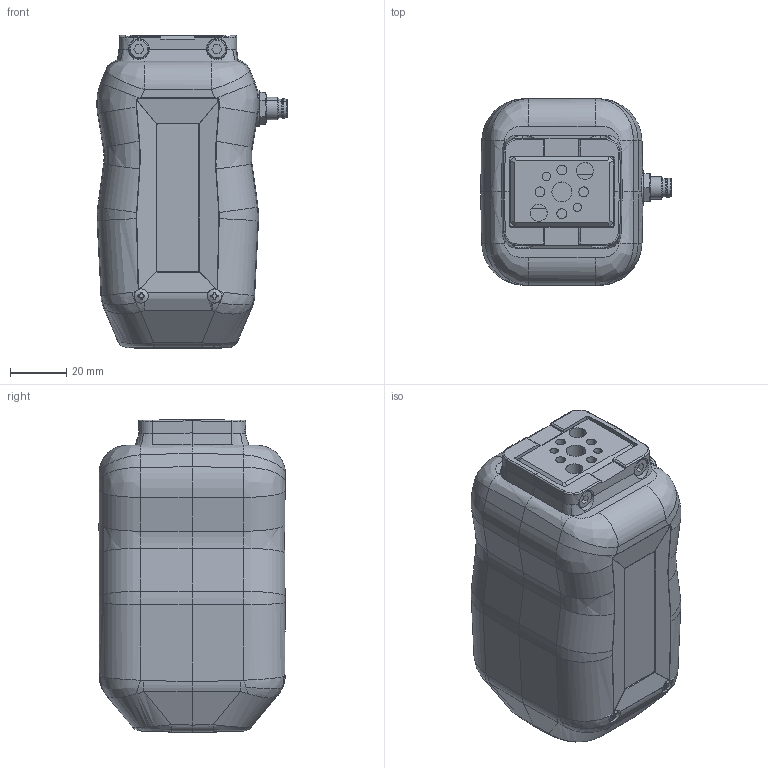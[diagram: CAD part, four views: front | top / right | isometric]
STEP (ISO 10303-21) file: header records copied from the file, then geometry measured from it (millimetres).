
FILE_DESCRIPTION((''),'2;1');
FILE_NAME('','2019-11-20T08:51:51',(''),(''),'','CADfix','');
FILE_SCHEMA(('AUTOMOTIVE_DESIGN { 1 0 10303 214 1 1 1 1 }'));
Length unit declared in the file: millimetre
Products named in the file (4): BODY; 取付ベース; パッドベース; SGE
Assembly tree (3 placements, depth 2):
  SGE
    BODY
    取付ベース
    パッドベース
Bounding box: 67.55 x 66.1 x 111.1 mm (x, y, z)
Volume: 336102 mm3; surface area: 38696.7 mm2
Topology: 3 solids, 3 shells, 777 faces, 2161 edges, 1430 vertices
Faces by surface type: bspline 777
Entity records: 34454 total; most frequent: CARTESIAN_POINT 19687, ORIENTED_EDGE 4322, STYLED_ITEM 2520, EDGE_CURVE 2161, VERTEX_POINT 1430, QUASI_UNIFORM_CURVE 1063, EDGE_LOOP 845, FACE_OUTER_BOUND 777
